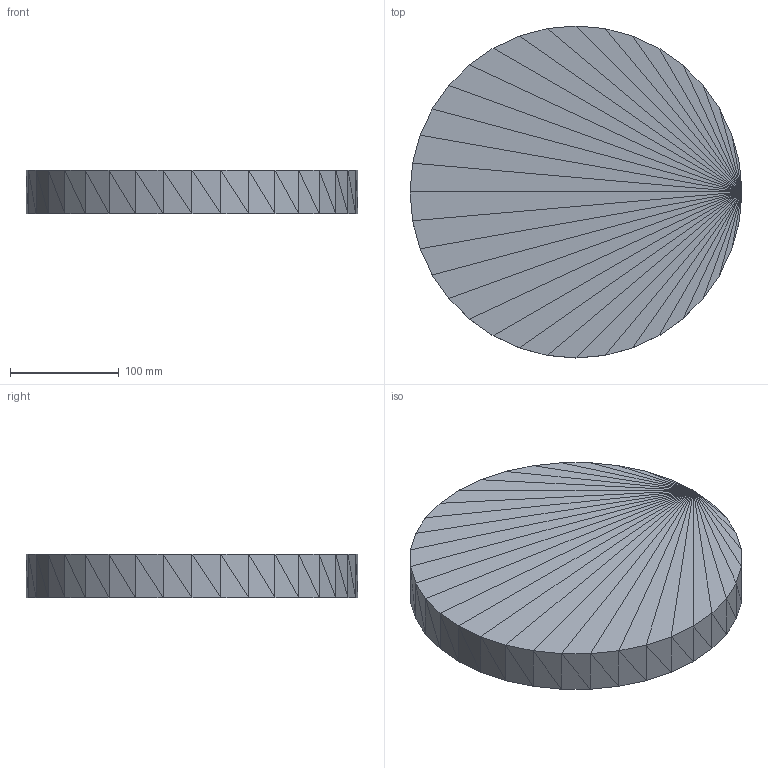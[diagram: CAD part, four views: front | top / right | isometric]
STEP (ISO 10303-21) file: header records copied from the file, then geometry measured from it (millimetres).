
FILE_DESCRIPTION(('ISINAC STEP AP214'),'2;1');
FILE_NAME('ISINAC_CIR.305_40mm_ADHESIVO','2026-05-03T10:49:19',('ISINAC'),('www.isinac.com'),'ISINAC BIM Generator 1.0','','');
FILE_SCHEMA(('AUTOMOTIVE_DESIGN'));
Length unit declared in the file: millimetre
Products named in the file (1): ISINAC_CIR.305_40mm_ADHESIVO
Bounding box: 305 x 305 x 40 mm (x, y, z)
Surface area: 183661.4 mm2 (no closed solid volume)
Topology: 0 solids, 140 shells, 140 faces, 420 edges, 420 vertices
Faces by surface type: plane 140
Entity records: 1553 total; most frequent: CARTESIAN_POINT 560, DIRECTION 280, POLY_LOOP 140, FACE_OUTER_BOUND 140, AXIS2_PLACEMENT_3D 140, PLANE 140, FACE_SURFACE 140, CLOSED_SHELL 1
